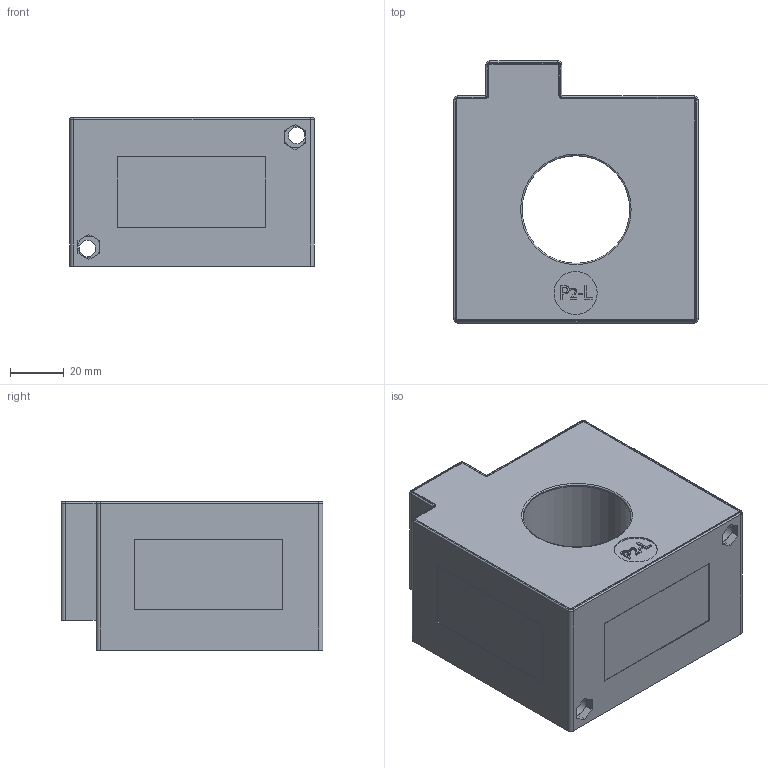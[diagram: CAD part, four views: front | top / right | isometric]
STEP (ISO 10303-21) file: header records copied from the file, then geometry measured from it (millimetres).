
FILE_DESCRIPTION(/* description */ (''),/* implementation_level */ '2;1');
FILE_NAME(/* name */ 'C:\mis documentos\DWG - INVENTOR\TU40RGI.stp',/* time_stamp */ '2020-10-01T11:26:02+02:00',/* author */ ('aprieto3'),/* organization */ (''),/* preprocessor_version */ 'ST-DEVELOPER v16.5',/* originating_system */ 'Autodesk Inventor LT',/* authorisation */ '');
FILE_SCHEMA (('AUTOMOTIVE_DESIGN { 1 0 10303 214 3 1 1 }'));
Length unit declared in the file: millimetre
Products named in the file (1): visualizacion cuerpo y tapa
Bounding box: 90.71 x 97.18 x 55.01 mm (x, y, z)
Volume: 76928.6 mm3; surface area: 83022.2 mm2
Topology: 2 solids, 3 shells, 250 faces, 650 edges, 428 vertices
Faces by surface type: plane 184, cylinder 30, bspline 28, torus 8
Full cylindrical faces by diameter (mm): 6.1 x2, 8.1 x2, 16 x2, 18.8 x1, 40 x2, 42 x1, 42.2 x1, 44 x1
Entity records: 7940 total; most frequent: CARTESIAN_POINT 1677, ORIENTED_EDGE 1270, DIRECTION 1098, EDGE_CURVE 635, LINE 506, VECTOR 506, VERTEX_POINT 427, EDGE_LOOP 300
